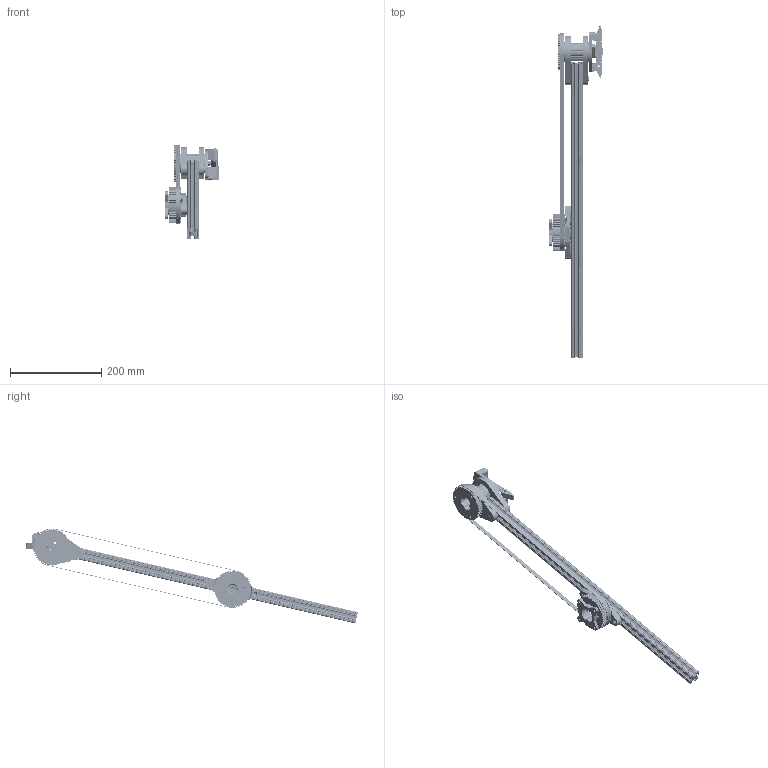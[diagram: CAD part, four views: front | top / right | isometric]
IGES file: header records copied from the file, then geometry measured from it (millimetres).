
Global section: file name: A00-SpinningArmMechanism v49; native system: unknown; preprocessor: unknown; author: unknown; organization: unknown; date: 20250726.165838; units: inch
Bounding box: 117.95 x 727.84 x 208.15 mm (x, y, z)
Volume: 564219.8 mm3; surface area: 322780.5 mm2
Topology: 42 solids, 42 shells, 1868 faces, 4923 edges, 3229 vertices
Faces by surface type: bspline 1868
